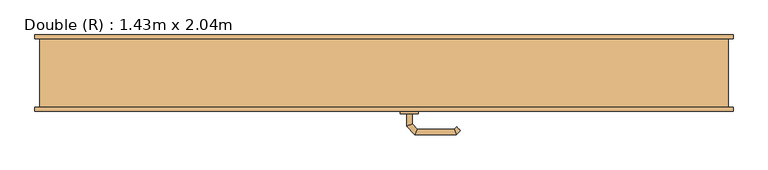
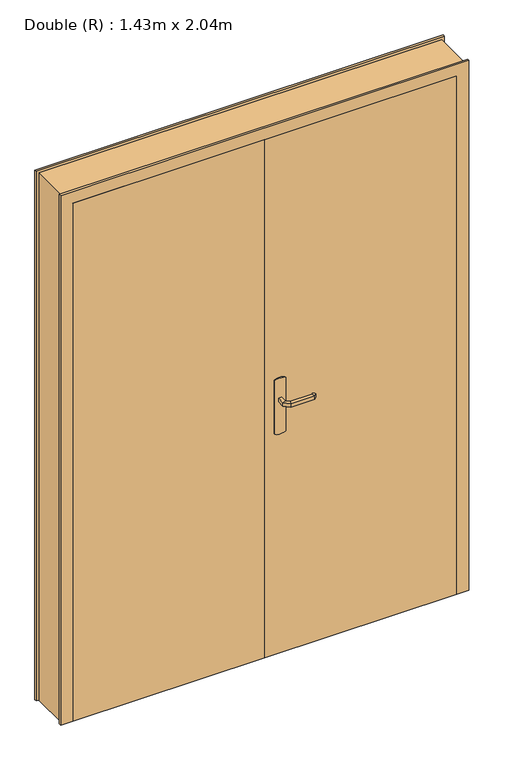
"""IFC4 building model written with IfcOpenShell, lengths in millimetres: door geometry, Double (R) : 1.43m x 2.04m."""

import ifcopenshell
import ifcopenshell.guid

model = None  # the IFC model being written
_history = None  # IfcOwnerHistory: only IFC2X3 demands one
_inside = {}  # id of a spatial element -> (the spatial element, [elements in it])
_under = {}  # id of a project, library or spatial element -> (it, [spatial elements below it])
_declared = {}  # id of a project -> (the project, [libraries it declares])
_typed = {}  # id of a type object -> (the type object, [elements of that type])
_made_of = {}  # id of a material, layer set ... -> (it, [elements and type objects made of it])


def new_model(schema):
    """Start an empty IFC model of exactly this schema.

    Asked for "IFC4X3", IfcOpenShell would pick the latest addendum, in which some entities
    have other attributes; the version numbers below select the first issue.
    IFC2X3 requires an IfcOwnerHistory on every rooted entity: one is made here for all.
    """
    global model, _history
    if schema == "IFC4X3":
        model = ifcopenshell.file(schema_version=(4, 3, 0, 0))
    else:
        model = ifcopenshell.file(schema=schema)
    _inside.clear()
    _under.clear()
    _declared.clear()
    _typed.clear()
    _made_of.clear()
    _history = None
    if model.schema == "IFC2X3":
        org = make("IfcOrganization", Name="unknown")
        user = make(
            "IfcPersonAndOrganization",
            ThePerson=make("IfcPerson", FamilyName="unknown"),
            TheOrganization=org,
        )
        app = make(
            "IfcApplication",
            ApplicationDeveloper=org,
            Version="unknown",
            ApplicationFullName="unknown",
            ApplicationIdentifier="unknown",
        )
        _history = make(
            "IfcOwnerHistory",
            OwningUser=user,
            OwningApplication=app,
            ChangeAction="ADDED",
            CreationDate=0,
        )
    return model


def make(cls, **values):
    """One entity of the class cls with the attributes given. An attribute that is None is left unset."""
    return model.create_entity(
        cls, **{name: value for name, value in values.items() if value is not None}
    )


def rooted(cls, **values):
    """An entity with a GlobalId (a new one), such as an element, a storey or a relation."""
    return make(cls, GlobalId=ifcopenshell.guid.new(), OwnerHistory=_history, **values)


def si_unit(unit_type, name, prefix=None):
    """IfcSIUnit, for example si_unit("LENGTHUNIT", "METRE", prefix="MILLI")."""
    return make("IfcSIUnit", UnitType=unit_type, Prefix=prefix, Name=name)


def assignment(units):
    """IfcUnitAssignment: the units of a project."""
    return None if units is None else make("IfcUnitAssignment", Units=units)


def point(xyz):
    """IfcCartesianPoint."""
    return None if xyz is None else make("IfcCartesianPoint", Coordinates=xyz)


def direction(xyz):
    """IfcDirection."""
    return None if xyz is None else make("IfcDirection", DirectionRatios=xyz)


def frame(location, z_axis=None, x_axis=None):
    """IfcAxis2Placement3D, a coordinate frame: its origin and axes. An axis left out is left unset."""
    return make(
        "IfcAxis2Placement3D",
        Location=point(location),
        Axis=direction(z_axis),
        RefDirection=direction(x_axis),
    )


def frame_2d(location, x_axis=None):
    """IfcAxis2Placement2D, a coordinate frame in the plane: its origin and x axis."""
    return make(
        "IfcAxis2Placement2D", Location=point(location), RefDirection=direction(x_axis)
    )


def origin():
    """The frame at (0, 0, 0) with its axes left unset."""
    return frame((0.0, 0.0, 0.0))


def origin_with_axes():
    """The frame at (0, 0, 0) with the z axis (0, 0, 1) and the x axis (1, 0, 0) written out."""
    return frame((0.0, 0.0, 0.0), z_axis=(0.0, 0.0, 1.0), x_axis=(1.0, 0.0, 0.0))


def place(relative_to, where):
    """IfcLocalPlacement: puts the frame where relative to a parent placement (None: the world)."""
    return make(
        "IfcLocalPlacement", PlacementRelTo=relative_to, RelativePlacement=where
    )


def context(
    kind, dimensions, precision=None, world=None, true_north=None, identifier=None
):
    """IfcGeometricRepresentationContext, for example the 3D "Model" context."""
    return make(
        "IfcGeometricRepresentationContext",
        ContextIdentifier=identifier,
        ContextType=kind,
        CoordinateSpaceDimension=dimensions,
        Precision=precision,
        WorldCoordinateSystem=world,
        TrueNorth=true_north,
    )


def project(units=None, contexts=None):
    """IfcProject with its units and contexts."""
    return rooted(
        "IfcProject",
        Name="project",
        RepresentationContexts=contexts,
        UnitsInContext=assignment(units),
    )


def spatial(cls, under=None, at=None, **own):
    """A site, building, storey or space (cls), placed at a placement, below another one or the project."""
    s = rooted(cls, ObjectPlacement=at, **own)
    if under is not None:
        _under.setdefault(under.id(), (under, []))[1].append(s)
    return s


def polyline(points):
    """IfcPolyline through the points."""
    return make("IfcPolyline", Points=[point(p) for p in points])


def circle_curve(where, radius):
    """IfcCircle in the frame where."""
    return make("IfcCircle", Position=where, Radius=radius)


def ellipse_curve(where, semi_axis1, semi_axis2):
    """IfcEllipse in the frame where."""
    return make(
        "IfcEllipse", Position=where, SemiAxis1=semi_axis1, SemiAxis2=semi_axis2
    )


def trimmed(basis, trim1, trim2, sense, master):
    """IfcTrimmedCurve: the piece of a basis curve between two trims."""
    return make(
        "IfcTrimmedCurve",
        BasisCurve=basis,
        Trim1=trim1,
        Trim2=trim2,
        SenseAgreement=sense,
        MasterRepresentation=master,
    )


def segment(curve, same_sense, transition):
    """IfcCompositeCurveSegment."""
    return make(
        "IfcCompositeCurveSegment",
        Transition=transition,
        SameSense=same_sense,
        ParentCurve=curve,
    )


def composite_curve(segments, self_intersect=None):
    """IfcCompositeCurve: segments joined end to end."""
    return make("IfcCompositeCurve", Segments=segments, SelfIntersect=self_intersect)


def outline(outer, holes=None, kind="AREA"):
    """IfcArbitraryClosedProfileDef: a profile drawn as a closed curve; with holes, ...WithVoids."""
    if holes is None:
        return make("IfcArbitraryClosedProfileDef", ProfileType=kind, OuterCurve=outer)
    return make(
        "IfcArbitraryProfileDefWithVoids",
        ProfileType=kind,
        OuterCurve=outer,
        InnerCurves=holes,
    )


def extrude(swept, where, along, depth):
    """IfcExtrudedAreaSolid: the profile swept, set in the frame where, extruded along a direction by depth."""
    return make(
        "IfcExtrudedAreaSolid",
        SweptArea=swept,
        Position=where,
        ExtrudedDirection=direction(along),
        Depth=depth,
    )


def faces_of(points, faces, orient=None, outer=None):
    """IfcFace entities. A face is a list of loops; a loop is a list of indices into points, from 0.

    orient and outer hold one flag for each loop. By default every Orientation is true, the
    first loop of a face is its IfcFaceOuterBound and the others are IfcFaceBound.
    """
    made = []
    for i, loops in enumerate(faces):
        bounds = []
        for j, loop in enumerate(loops):
            is_outer = j == 0 if outer is None else outer[i][j]
            bounds.append(
                make(
                    "IfcFaceOuterBound" if is_outer else "IfcFaceBound",
                    Bound=make("IfcPolyLoop", Polygon=[points[k] for k in loop]),
                    Orientation=True if orient is None else orient[i][j],
                )
            )
        made.append(make("IfcFace", Bounds=bounds))
    return made


def faceted_brep(points, faces, orient=None, outer=None, voids=None):
    """IfcFacetedBrep: a solid bounded by flat faces; with voids (closed shells), ...WithVoids."""
    shared = [point(p) for p in points]
    hull = make("IfcClosedShell", CfsFaces=faces_of(shared, faces, orient, outer))
    if voids is None:
        return make("IfcFacetedBrep", Outer=hull)
    return make(
        "IfcFacetedBrepWithVoids",
        Outer=hull,
        Voids=[
            make(cls, CfsFaces=faces_of(shared, fs, o, b)) for cls, fs, o, b in voids
        ],
    )


def shape(context_of_items, identifier, shape_type, items):
    """IfcShapeRepresentation: the items that make up one representation, for example the "Body"."""
    return make(
        "IfcShapeRepresentation",
        ContextOfItems=context_of_items,
        RepresentationIdentifier=identifier,
        RepresentationType=shape_type,
        Items=items,
    )


def source(mapping_origin, context_of_items, identifier, shape_type, items):
    """IfcRepresentationMap: a shape defined once, which mapped items show again and again."""
    return make(
        "IfcRepresentationMap",
        MappingOrigin=mapping_origin,
        MappedRepresentation=shape(context_of_items, identifier, shape_type, items),
    )


def transform(
    local_origin,
    x_axis=None,
    y_axis=None,
    z_axis=None,
    scale=None,
    scale2=None,
    scale3=None,
    uniform=True,
):
    """IfcCartesianTransformationOperator3D, or its non-uniform kind. x_axis, y_axis, z_axis: its Axis1, 2, 3."""
    if uniform:
        return make(
            "IfcCartesianTransformationOperator3D",
            Axis1=direction(x_axis),
            Axis2=direction(y_axis),
            LocalOrigin=point(local_origin),
            Scale=scale,
            Axis3=direction(z_axis),
        )
    return make(
        "IfcCartesianTransformationOperator3DnonUniform",
        Axis1=direction(x_axis),
        Axis2=direction(y_axis),
        LocalOrigin=point(local_origin),
        Scale=scale,
        Axis3=direction(z_axis),
        Scale2=scale2,
        Scale3=scale3,
    )


def mapped(mapping_source, mapping_target):
    """IfcMappedItem: shows the shape of a source again, moved by a transform."""
    return make(
        "IfcMappedItem", MappingSource=mapping_source, MappingTarget=mapping_target
    )


def made_of(thing, what):
    """Note that an element or type object is made of a material, layer set ...; save() writes the relation."""
    if what is not None:
        _made_of.setdefault(what.id(), (what, []))[1].append(thing)
    return thing


def element(
    cls,
    number,
    at=None,
    inside=None,
    cuts=None,
    type_object=None,
    material=None,
    context=None,
    identifier="Body",
    shape_type=None,
    held_by="IfcProductDefinitionShape",
    body=None,
    shapes=None,
    **own,
):
    """One element of the class cls, such as IfcWall. Its Tag is "e" and its number.

    at: its placement. inside: the storey or other place that contains it. cuts: it is an
    opening in that element (IfcRelVoidsElement). A single representation is given by context,
    identifier, shape_type and body (its items); several are given by shapes. held_by: the class
    of the entity that holds the representations. save() writes the other relations.
    """
    e = rooted(cls, Tag="e%d" % number, ObjectPlacement=at, **own)
    if body is not None:
        shapes = [shape(context, identifier, shape_type, body)]
    if shapes is not None:
        e.Representation = make(held_by, Representations=shapes)
    if inside is not None:
        _inside.setdefault(inside.id(), (inside, []))[1].append(e)
    if cuts is not None:
        rooted(
            "IfcRelVoidsElement", RelatingBuildingElement=cuts, RelatedOpeningElement=e
        )
    if type_object is not None:
        _typed.setdefault(type_object.id(), (type_object, []))[1].append(e)
    return made_of(e, material)


def aggregate(whole, parts):
    """IfcRelAggregates: a whole, such as a stair, and the parts it consists of."""
    return rooted("IfcRelAggregates", RelatingObject=whole, RelatedObjects=parts)


def save(model, path):
    """Write the relations noted so far, then the file.

    IfcRelAggregates (storeys below a building ...), IfcRelContainedInSpatialStructure (elements
    in a storey), IfcRelDefinesByType, IfcRelAssociatesMaterial and IfcRelDeclares: one each for
    every whole, place, type object, material and project.
    """
    for whole, parts in _under.values():
        aggregate(whole, parts)
    for where, things in _inside.values():
        rooted(
            "IfcRelContainedInSpatialStructure",
            RelatedElements=things,
            RelatingStructure=where,
        )
    for kind, things in _typed.values():
        rooted("IfcRelDefinesByType", RelatedObjects=things, RelatingType=kind)
    for what, things in _made_of.values():
        rooted("IfcRelAssociatesMaterial", RelatedObjects=things, RelatingMaterial=what)
    for by, libraries in _declared.values():
        rooted("IfcRelDeclares", RelatingContext=by, RelatedDefinitions=libraries)
    model.write(path)


def plane_surface(at):
    """IfcPlane: the flat surface through the origin of the frame at, square to its z axis."""
    return make("IfcPlane", Position=at)


def cylinder_surface(at, radius):
    """IfcCylindricalSurface: all points at the distance radius from the z axis of the frame at."""
    return make("IfcCylindricalSurface", Position=at, Radius=radius)


def advanced_brep(points, edges, surfaces, faces):
    """IfcAdvancedBrep: a solid bounded by faces that lie on surfaces and meet in shared edges.

    An edge is (start, end): straight between two places in points (the first is 0);
    or (start, end, curve); or (start, end, curve, False) where it runs against its curve.
    A face is (place in surfaces, loops), or (place, loops, False) where it looks against
    its surface's normal. A loop lists edges by number (the first is 1), with a minus sign
    where the edge is run from its end to its start. The first loop is the outer one.
    """
    corners = [point(p) for p in points]
    vertices = [make("IfcVertexPoint", VertexGeometry=c) for c in corners]
    made = []
    for start, end, *more in edges:
        made.append(
            make(
                "IfcEdgeCurve",
                EdgeStart=vertices[start],
                EdgeEnd=vertices[end],
                EdgeGeometry=more[0] if more else make("IfcPolyline", Points=[corners[start], corners[end]]),
                SameSense=more[1] if len(more) > 1 else True,
            )
        )
    hull = []
    for where, loops, *sense in faces:
        bounds = []
        for j, loop in enumerate(loops):
            ring = [make("IfcOrientedEdge", EdgeElement=made[abs(k) - 1], Orientation=k > 0) for k in loop]
            bounds.append(
                make(
                    "IfcFaceOuterBound" if j == 0 else "IfcFaceBound",
                    Bound=make("IfcEdgeLoop", EdgeList=ring),
                    Orientation=True,
                )
            )
        hull.append(make("IfcAdvancedFace", Bounds=bounds, FaceSurface=surfaces[where], SameSense=sense[0] if sense else True))
    return make("IfcAdvancedBrep", Outer=make("IfcClosedShell", CfsFaces=hull))


def double_r_1_43m_x_2_04m_e512b263(model_context):
    return source(origin(), model_context, "Body", "SolidModel", [
        advanced_brep(
        [(61.0, -38.0, 993.0), (61.0, -38.0, 1007.0), (49.0, -38.0, 1007.0), (49.0, -38.0, 993.0), (61.0, -15.5147955, 993.0), (61.0, -15.5147955, 1007.0), (49.0, -10.5442327, 1007.0), (49.0, -10.5442327, 993.0), (72.4852814, -4.0295141, 993.0), (72.4852814, -4.0295141, 1007.0), (67.5147186, 7.9704859, 1007.0), (67.5147186, 7.9704859, 993.0), (152.5605023, -4.0295141, 993.0), (152.5605023, -4.0295141, 1007.0), (157.531065, 7.9704859, 1007.0), (157.531065, 7.9704859, 993.0), (157.8742108, -9.3432226, 993.0), (166.3594922, -0.8579412, 993.0), (166.3594922, -0.8579412, 1007.0), (157.8742108, -9.3432226, 1007.0)],
        [
            (0, 1),
            (1, 2, circle_curve(frame((55.0, -38.0, 986.9542278), z_axis=(0.0, -1.0, 0.0), x_axis=(-1.0, 0.0, 0.0)), 20.9244589)),
            (2, 3),
            (3, 0, circle_curve(frame((55.0, -38.0, 1013.0457722), z_axis=(0.0, -1.0, 0.0), x_axis=(-1.0, 0.0, 0.0)), 20.9244589)),
            (0, 4),
            (4, 5),
            (5, 1),
            (5, 6, ellipse_curve(frame((55.0, -13.0295141, 986.9542278), z_axis=(-0.38268343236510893, -0.9238795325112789, 0.0), x_axis=(0.9238795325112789, -0.3826834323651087, 0.0)), 22.6484711, 20.9244589)),
            (6, 2),
            (6, 7),
            (7, 3),
            (7, 4, ellipse_curve(frame((55.0, -13.0295141, 1013.0457722), z_axis=(-0.38268343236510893, -0.9238795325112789, 0.0), x_axis=(0.9238795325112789, -0.3826834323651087, 0.0)), 22.6484711, 20.9244589)),
            (4, 8),
            (8, 9),
            (9, 5),
            (9, 10, ellipse_curve(frame((70.0, 1.9704859, 986.9542278), z_axis=(-0.9238795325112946, -0.38268343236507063, 0.0), x_axis=(0.3826834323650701, -0.9238795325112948, 0.0)), 22.6484711, 20.9244589)),
            (10, 6),
            (10, 11),
            (11, 7),
            (11, 8, ellipse_curve(frame((70.0, 1.9704859, 1013.0457722), z_axis=(-0.9238795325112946, -0.38268343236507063, 0.0), x_axis=(0.3826834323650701, -0.9238795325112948, 0.0)), 22.6484711, 20.9244589)),
            (8, 12),
            (12, 13),
            (13, 9),
            (13, 14, ellipse_curve(frame((155.0457837, 1.9704859, 986.9542278), z_axis=(-0.9238795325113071, 0.38268343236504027, 0.0), x_axis=(-0.38268343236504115, -0.9238795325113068, 0.0)), 22.6484711, 20.9244589)),
            (14, 10),
            (14, 15),
            (15, 11),
            (15, 12, ellipse_curve(frame((155.0457837, 1.9704859, 1013.0457722), z_axis=(-0.9238795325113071, 0.38268343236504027, 0.0), x_axis=(-0.38268343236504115, -0.9238795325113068, 0.0)), 22.6484711, 20.9244589)),
            (16, 17, circle_curve(frame((162.1168515, -5.1005819, 1013.0457722), z_axis=(0.7071067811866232, -0.7071067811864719, 0.0), x_axis=(0.7071067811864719, 0.7071067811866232, 0.0)), 20.9244589)),
            (17, 18),
            (18, 19, circle_curve(frame((162.1168515, -5.1005819, 986.9542278), z_axis=(0.7071067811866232, -0.7071067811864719, 0.0), x_axis=(0.7071067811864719, 0.7071067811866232, 0.0)), 20.9244589)),
            (19, 16),
            (12, 16),
            (19, 13),
            (18, 14),
            (17, 15),
        ],
        [
            plane_surface(frame((45.7804555, -38.0, 1000.0), z_axis=(0.0, -1.0, 0.0), x_axis=(0.0, 0.0, 1.0))),
            plane_surface(frame((61.0, -38.0, 993.0), z_axis=(1.0, 0.0, 0.0), x_axis=(0.0, 1.0, 0.0))),
            cylinder_surface(frame((55.0, -38.0, 986.9542278), z_axis=(0.0, -1.0, 0.0), x_axis=(-1.0, 0.0, 0.0)), 20.9244589),
            plane_surface(frame((49.0, -38.0, 1007.0), z_axis=(-1.0, 0.0, 0.0), x_axis=(0.0, 1.0, 0.0))),
            cylinder_surface(frame((55.0, -38.0, 1013.0457722), z_axis=(0.0, -1.0, 0.0), x_axis=(-1.0, 0.0, 0.0)), 20.9244589),
            plane_surface(frame((61.0, -15.5147955, 993.0), z_axis=(0.707106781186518, -0.707106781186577, 0.0), x_axis=(0.707106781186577, 0.707106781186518, 0.0))),
            cylinder_surface(frame((55.0, -13.0295141, 986.9542278), z_axis=(-0.7071067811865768, -0.7071067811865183, 0.0), x_axis=(-0.7071067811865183, 0.7071067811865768, 0.0)), 20.9244589),
            plane_surface(frame((49.0, -10.5442327, 1007.0), z_axis=(-0.7071067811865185, 0.7071067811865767, 0.0), x_axis=(0.7071067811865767, 0.7071067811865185, 0.0))),
            cylinder_surface(frame((55.0, -13.0295141, 1013.0457722), z_axis=(-0.7071067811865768, -0.7071067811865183, 0.0), x_axis=(-0.7071067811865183, 0.7071067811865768, 0.0)), 20.9244589),
            plane_surface(frame((72.4852814, -4.0295141, 993.0), z_axis=(0.0, -1.0, 0.0), x_axis=(1.0, 0.0, 0.0))),
            cylinder_surface(frame((70.0, 1.9704859, 986.9542278), z_axis=(-1.0, 0.0, 0.0), x_axis=(0.0, 1.0, 0.0)), 20.9244589),
            plane_surface(frame((67.5147186, 7.9704859, 1007.0), z_axis=(0.0, 1.0, 0.0), x_axis=(1.0, 0.0, 0.0))),
            cylinder_surface(frame((70.0, 1.9704859, 1013.0457722), z_axis=(-1.0, 0.0, 0.0), x_axis=(0.0, 1.0, 0.0)), 20.9244589),
            plane_surface(frame((162.1168515, -5.1005819, 990.7804555), z_axis=(0.7071067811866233, -0.7071067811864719, 0.0), x_axis=(0.7071067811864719, 0.7071067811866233, 0.0))),
            plane_surface(frame((152.5605023, -4.0295141, 993.0), z_axis=(-0.707106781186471, -0.7071067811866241, 0.0), x_axis=(0.7071067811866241, -0.707106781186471, 0.0))),
            cylinder_surface(frame((155.0457837, 1.9704859, 986.9542278), z_axis=(-0.7071067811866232, 0.7071067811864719, 0.0), x_axis=(0.7071067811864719, 0.7071067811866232, 0.0)), 20.9244589),
            plane_surface(frame((157.531065, 7.9704859, 1007.0), z_axis=(0.7071067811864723, 0.7071067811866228, 0.0), x_axis=(0.7071067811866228, -0.7071067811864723, 0.0))),
            cylinder_surface(frame((155.0457837, 1.9704859, 1013.0457722), z_axis=(-0.7071067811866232, 0.7071067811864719, 0.0), x_axis=(0.7071067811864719, 0.7071067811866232, 0.0)), 20.9244589),
        ],
        [
            (0, [[1, 2, 3, 4]]),
            (1, [[-1, 5, 6, 7]]),
            (2, [[-2, -7, 8, 9]]),
            (3, [[-3, -9, 10, 11]]),
            (4, [[-4, -11, 12, -5]]),
            (5, [[-6, 13, 14, 15]]),
            (6, [[-8, -15, 16, 17]]),
            (7, [[-10, -17, 18, 19]]),
            (8, [[-12, -19, 20, -13]]),
            (9, [[-14, 21, 22, 23]]),
            (10, [[-16, -23, 24, 25]]),
            (11, [[-18, -25, 26, 27]]),
            (12, [[-20, -27, 28, -21]]),
            (13, [[29, 30, 31, 32]]),
            (14, [[-22, 33, -32, 34]]),
            (15, [[-24, -34, -31, 35]]),
            (16, [[-26, -35, -30, 36]]),
            (17, [[-28, -36, -29, -33]]),
        ],
    ),
        advanced_brep(
        [(49.0, -88.0, 1007.0), (61.0, -88.0, 1007.0), (61.0, -88.0, 993.0), (49.0, -88.0, 993.0), (49.0, -115.6509507, 1007.0), (61.0, -110.680388, 1007.0), (61.0, -110.680388, 993.0), (49.0, -115.6509507, 993.0), (67.37721, -134.0281607, 1007.0), (72.3477727, -122.0281607, 1007.0), (72.3477727, -122.0281607, 993.0), (67.37721, -134.0281607, 993.0), (157.503922, -134.0281607, 1007.0), (152.5333592, -122.0281607, 1007.0), (152.5333592, -122.0281607, 993.0), (157.503922, -134.0281607, 993.0), (166.3323491, -125.1997336, 1007.0), (166.3323491, -125.1997336, 993.0), (157.8470677, -116.7144522, 993.0), (157.8470677, -116.7144522, 1007.0)],
        [
            (0, 1, circle_curve(frame((55.0, -88.0, 986.9542278), z_axis=(0.0, 1.0, 0.0), x_axis=(1.0, 0.0, 0.0)), 20.9244589)),
            (1, 2),
            (2, 3, circle_curve(frame((55.0, -88.0, 1013.0457722), z_axis=(0.0, 1.0, 0.0), x_axis=(1.0, 0.0, 0.0)), 20.9244589)),
            (3, 0),
            (0, 4),
            (4, 5, ellipse_curve(frame((55.0, -113.1656693, 986.9542278), z_axis=(-0.3826834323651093, 0.9238795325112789, 0.0), x_axis=(0.9238795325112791, 0.38268343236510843, 0.0)), 22.6484711, 20.9244589)),
            (5, 1),
            (5, 6),
            (6, 2),
            (6, 7, ellipse_curve(frame((55.0, -113.1656693, 1013.0457722), z_axis=(-0.3826834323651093, 0.9238795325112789, 0.0), x_axis=(0.9238795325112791, 0.38268343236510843, 0.0)), 22.6484711, 20.9244589)),
            (7, 3),
            (7, 4),
            (4, 8),
            (8, 9, ellipse_curve(frame((69.8624914, -128.0281607, 986.9542278), z_axis=(-0.9238795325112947, 0.38268343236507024, 0.0), x_axis=(0.3826834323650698, 0.9238795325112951, 0.0)), 22.6484711, 20.9244589)),
            (9, 5),
            (9, 10),
            (10, 6),
            (10, 11, ellipse_curve(frame((69.8624914, -128.0281607, 1013.0457722), z_axis=(-0.9238795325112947, 0.38268343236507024, 0.0), x_axis=(0.3826834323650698, 0.9238795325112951, 0.0)), 22.6484711, 20.9244589)),
            (11, 7),
            (11, 8),
            (8, 12),
            (12, 13, ellipse_curve(frame((155.0186406, -128.0281607, 986.9542278), z_axis=(-0.9238795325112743, -0.3826834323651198, 0.0), x_axis=(-0.38268343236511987, 0.9238795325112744, 0.0)), 22.6484711, 20.9244589)),
            (13, 9),
            (13, 14),
            (14, 10),
            (14, 15, ellipse_curve(frame((155.0186406, -128.0281607, 1013.0457722), z_axis=(-0.9238795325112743, -0.3826834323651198, 0.0), x_axis=(-0.38268343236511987, 0.9238795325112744, 0.0)), 22.6484711, 20.9244589)),
            (15, 11),
            (15, 12),
            (16, 17),
            (17, 18, circle_curve(frame((162.0897084, -120.9570929, 1013.0457722), z_axis=(0.7071067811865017, 0.7071067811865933, 0.0), x_axis=(-0.7071067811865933, 0.7071067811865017, 0.0)), 20.9244589)),
            (18, 19),
            (19, 16, circle_curve(frame((162.0897084, -120.9570929, 986.9542278), z_axis=(0.7071067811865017, 0.7071067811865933, 0.0), x_axis=(-0.7071067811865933, 0.7071067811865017, 0.0)), 20.9244589)),
            (12, 16),
            (19, 13),
            (18, 14),
            (17, 15),
        ],
        [
            plane_surface(frame((45.7804555, -88.0, 1000.0), z_axis=(0.0, 1.0, 0.0), x_axis=(0.0, 0.0, -1.0))),
            cylinder_surface(frame((55.0, -88.0, 986.9542278), z_axis=(0.0, 1.0, 0.0), x_axis=(1.0, 0.0, 0.0)), 20.9244589),
            plane_surface(frame((61.0, -88.0, 1007.0), z_axis=(1.0, 0.0, 0.0), x_axis=(0.0, -1.0, 0.0))),
            cylinder_surface(frame((55.0, -88.0, 1013.0457722), z_axis=(0.0, 1.0, 0.0), x_axis=(1.0, 0.0, 0.0)), 20.9244589),
            plane_surface(frame((49.0, -88.0, 993.0), z_axis=(-1.0, 0.0, 0.0), x_axis=(0.0, -1.0, 0.0))),
            cylinder_surface(frame((55.0, -113.1656693, 986.9542278), z_axis=(-0.7071067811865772, 0.7071067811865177, 0.0), x_axis=(0.7071067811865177, 0.7071067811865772, 0.0)), 20.9244589),
            plane_surface(frame((61.0, -110.680388, 1007.0), z_axis=(0.7071067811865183, 0.7071067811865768, 0.0), x_axis=(0.7071067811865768, -0.7071067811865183, 0.0))),
            cylinder_surface(frame((55.0, -113.1656693, 1013.0457722), z_axis=(-0.7071067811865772, 0.7071067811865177, 0.0), x_axis=(0.7071067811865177, 0.7071067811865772, 0.0)), 20.9244589),
            plane_surface(frame((49.0, -115.6509507, 993.0), z_axis=(-0.707106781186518, -0.707106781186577, 0.0), x_axis=(0.707106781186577, -0.707106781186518, 0.0))),
            cylinder_surface(frame((69.8624914, -128.0281607, 986.9542278), z_axis=(-1.0, 0.0, 0.0), x_axis=(0.0, 1.0, 0.0)), 20.9244589),
            plane_surface(frame((72.3477727, -122.0281607, 1007.0), z_axis=(0.0, 1.0, 0.0), x_axis=(1.0, 0.0, 0.0))),
            cylinder_surface(frame((69.8624914, -128.0281607, 1013.0457722), z_axis=(-1.0, 0.0, 0.0), x_axis=(0.0, 1.0, 0.0)), 20.9244589),
            plane_surface(frame((67.37721, -134.0281607, 993.0), z_axis=(0.0, -1.0, 0.0), x_axis=(1.0, 0.0, 0.0))),
            plane_surface(frame((162.0897084, -120.9570929, 1009.2195445), z_axis=(0.7071067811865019, 0.7071067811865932, 0.0), x_axis=(0.7071067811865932, -0.7071067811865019, 0.0))),
            cylinder_surface(frame((155.0186406, -128.0281607, 986.9542278), z_axis=(-0.7071067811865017, -0.7071067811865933, 0.0), x_axis=(-0.7071067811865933, 0.7071067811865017, 0.0)), 20.9244589),
            plane_surface(frame((152.5333592, -122.0281607, 1007.0), z_axis=(-0.7071067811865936, 0.7071067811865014, 0.0), x_axis=(0.7071067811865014, 0.7071067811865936, 0.0))),
            cylinder_surface(frame((155.0186406, -128.0281607, 1013.0457722), z_axis=(-0.7071067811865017, -0.7071067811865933, 0.0), x_axis=(-0.7071067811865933, 0.7071067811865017, 0.0)), 20.9244589),
            plane_surface(frame((157.503922, -134.0281607, 993.0), z_axis=(0.707106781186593, -0.7071067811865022, 0.0), x_axis=(0.7071067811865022, 0.707106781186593, 0.0))),
        ],
        [
            (0, [[1, 2, 3, 4]]),
            (1, [[-1, 5, 6, 7]]),
            (2, [[-2, -7, 8, 9]]),
            (3, [[-3, -9, 10, 11]]),
            (4, [[-4, -11, 12, -5]]),
            (5, [[-6, 13, 14, 15]]),
            (6, [[-8, -15, 16, 17]]),
            (7, [[-10, -17, 18, 19]]),
            (8, [[-12, -19, 20, -13]]),
            (9, [[-14, 21, 22, 23]]),
            (10, [[-16, -23, 24, 25]]),
            (11, [[-18, -25, 26, 27]]),
            (12, [[-20, -27, 28, -21]]),
            (13, [[29, 30, 31, 32]]),
            (14, [[-22, 33, -32, 34]]),
            (15, [[-24, -34, -31, 35]]),
            (16, [[-26, -35, -30, 36]]),
            (17, [[-28, -36, -29, -33]]),
        ],
    ),
        extrude(outline(composite_curve([segment(trimmed(circle_curve(frame_2d((1045.3589838, 55.0)), 40.0), [point((1080.0, 75.0))], [point((1080.0, 35.0))], False, "CARTESIAN"), True, "CONTINUOUS"), segment(polyline([(1080.0, 35.0), (870.0, 35.0)]), True, "CONTINUOUS"), segment(trimmed(circle_curve(frame_2d((904.6410162, 55.0)), 40.0), [point((870.0, 35.0))], [point((870.0, 75.0))], False, "CARTESIAN"), True, "CONTINUOUS"), segment(polyline([(870.0, 75.0), (1080.0, 75.0)]), True, "CONTINUOUS")], self_intersect=False)), frame((0.0, -43.0, 0.0), z_axis=(0.0, 1.0, 0.0), x_axis=(0.0, 0.0, 1.0)), (0.0, 0.0, 1.0), 5.0),
        extrude(outline(composite_curve([segment(trimmed(circle_curve(frame_2d((904.6410162, 55.0)), 40.0), [point((870.0, 35.0))], [point((870.0, 75.0))], False, "CARTESIAN"), True, "CONTINUOUS"), segment(polyline([(870.0, 75.0), (1080.0, 75.0)]), True, "CONTINUOUS"), segment(trimmed(circle_curve(frame_2d((1045.3589838, 55.0)), 40.0), [point((1080.0, 75.0))], [point((1080.0, 35.0))], False, "CARTESIAN"), True, "CONTINUOUS"), segment(polyline([(1080.0, 35.0), (870.0, 35.0)]), True, "CONTINUOUS")], self_intersect=False)), frame((0.0, -88.0, 0.0), z_axis=(0.0, 1.0, 0.0), x_axis=(0.0, 0.0, 1.0)), (0.0, 0.0, 1.0), 5.0),
        faceted_brep([(-750.0, -75.0, 0.0), (-750.0, 75.0, 0.0), (-760.0, 75.0, 0.0), (-760.0, 83.0, 0.0), (-700.0, 83.0, 0.0), (-700.0, -43.0, 0.0), (-715.0, -43.0, 0.0), (-715.0, -83.0, 0.0), (-760.0, -83.0, 0.0), (-760.0, -75.0, 0.0), (-750.0, -75.0, 2075.0), (-750.0, 75.0, 2075.0), (750.0, 75.0, 2075.0), (750.0, 75.0, 0.0), (760.0, 75.0, 0.0), (760.0, 75.0, 2085.0), (-760.0, 75.0, 2085.0), (-760.0, 83.0, 2085.0), (760.0, 83.0, 2085.0), (760.0, 83.0, 0.0), (700.0, 83.0, 0.0), (700.0, 83.0, 2025.0), (-700.0, 83.0, 2025.0), (-700.0, -43.0, 2025.0), (700.0, -43.0, 2025.0), (700.0, -43.0, 0.0), (715.0, -43.0, 0.0), (715.0, -43.0, 2040.0), (-715.0, -43.0, 2040.0), (-715.0, -83.0, 2040.0), (715.0, -83.0, 2040.0), (715.0, -83.0, 0.0), (760.0, -83.0, 0.0), (760.0, -83.0, 2085.0), (-760.0, -83.0, 2085.0), (-760.0, -75.0, 2085.0), (760.0, -75.0, 2085.0), (760.0, -75.0, 0.0), (750.0, -75.0, 0.0), (750.0, -75.0, 2075.0)], [[[0, 1, 2, 3, 4, 5, 6, 7, 8, 9]], [[1, 0, 10, 11]], [[2, 1, 11, 12, 13, 14, 15, 16]], [[3, 2, 16, 17]], [[4, 3, 17, 18, 19, 20, 21, 22]], [[5, 4, 22, 23]], [[6, 5, 23, 24, 25, 26, 27, 28]], [[7, 6, 28, 29]], [[8, 7, 29, 30, 31, 32, 33, 34]], [[9, 8, 34, 35]], [[0, 9, 35, 36, 37, 38, 39, 10]], [[12, 39, 38, 13]], [[38, 37, 32, 31, 26, 25, 20, 19, 14, 13]], [[18, 15, 14, 19]], [[24, 21, 20, 25]], [[30, 27, 26, 31]], [[36, 33, 32, 37]], [[11, 10, 39, 12]], [[17, 16, 15, 18]], [[23, 22, 21, 24]], [[29, 28, 27, 30]], [[35, 34, 33, 36]]]),
        extrude(outline(polyline([(715.0, -83.0), (0.0, -83.0), (0.0, -43.0), (715.0, -43.0), (715.0, -83.0)])), origin_with_axes(), (0.0, 0.0, 1.0), 2040.0),
        extrude(outline(polyline([(0.0, -83.0), (-715.0, -83.0), (-715.0, -43.0), (0.0, -43.0), (0.0, -83.0)])), origin_with_axes(), (0.0, 0.0, 1.0), 2040.0),
    ])


if __name__ == "__main__":
    model = new_model("IFC4")
    model_context = context("Model", 3, world=origin())
    ifc_project = project(units=[si_unit("LENGTHUNIT", "METRE", prefix="MILLI")], contexts=[model_context])
    site = spatial("IfcSite", under=ifc_project)
    building = spatial("IfcBuilding", under=site)
    placement = place(None, origin())
    double_r_1_43m_x_2_04m_shape = double_r_1_43m_x_2_04m_e512b263(model_context)
    element("IfcDoor", 1, ObjectType="Double (R) : 1.43m x 2.04m", at=placement, inside=building, context=model_context, shape_type="MappedRepresentation", body=[
        mapped(double_r_1_43m_x_2_04m_shape, transform((0.0, 0.0, 0.0), x_axis=(1.0, 0.0, 0.0), y_axis=(0.0, 1.0, 0.0), z_axis=(0.0, 0.0, 1.0))),
    ])
    save(model, "model.ifc")
